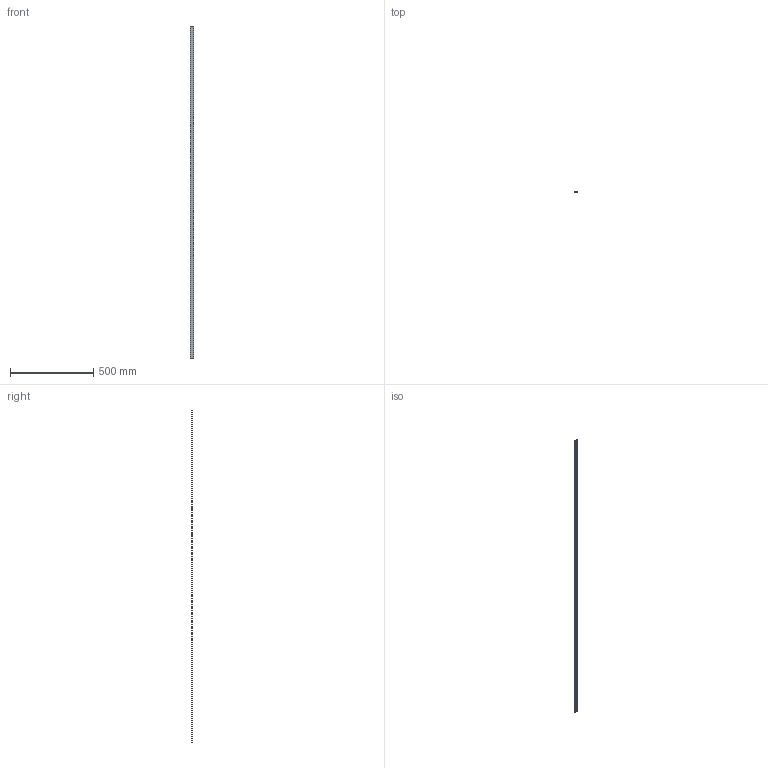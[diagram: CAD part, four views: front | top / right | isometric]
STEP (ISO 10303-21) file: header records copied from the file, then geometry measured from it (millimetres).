
FILE_DESCRIPTION (( 'STEP AP214' ), '1' );
FILE_NAME ('Strong krytka pro LED profil FANTO_342531 a 367242_3D.STEP', '2019-09-02T07:45:58', ( '' ), ( '' ), 'SwSTEP 2.0', 'SolidWorks 2019', '' );
FILE_SCHEMA (( 'AUTOMOTIVE_DESIGN' ));
Length unit declared in the file: millimetre
Products named in the file (1): Strong krytka pro LED profil FANTO_342531 a 367242_3D
Bounding box: 22.02 x 5.01 x 2000 mm (x, y, z)
Volume: 63385.1 mm3; surface area: 119658 mm2
Topology: 1 solids, 1 shells, 22 faces, 60 edges, 40 vertices
Faces by surface type: cylinder 12, plane 10
Entity records: 742 total; most frequent: DIRECTION 130, CARTESIAN_POINT 123, ORIENTED_EDGE 120, EDGE_CURVE 60, AXIS2_PLACEMENT_3D 47, VERTEX_POINT 40, LINE 36, VECTOR 36
